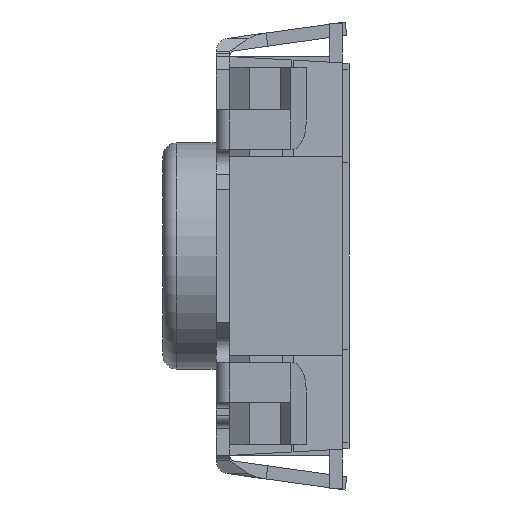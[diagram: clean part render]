
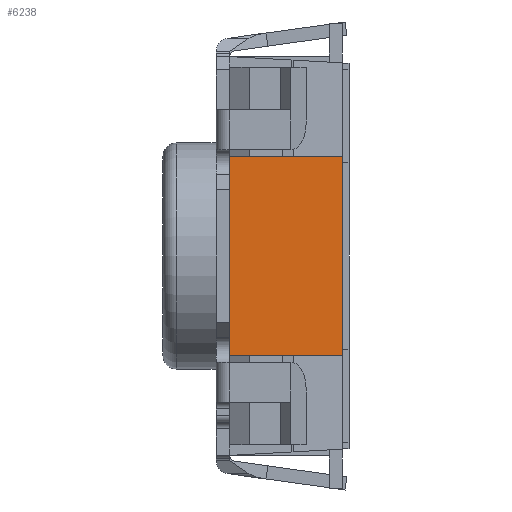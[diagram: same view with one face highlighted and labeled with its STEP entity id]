
A CAD part, left-side view. The second image highlights one B-rep face of the part: STEP entity #6238.
In plain terms, the highlighted planar face has unit normal (-1, 0, 0).
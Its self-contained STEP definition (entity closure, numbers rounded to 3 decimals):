
#214 = CARTESIAN_POINT ( 'NONE',  ( -1.29, 0.05, 0.75 ) ) ;
#222 = DIRECTION ( 'NONE',  ( 0., 0., 1. ) ) ;
#609 = VERTEX_POINT ( 'NONE', #6124 ) ;
#613 = CARTESIAN_POINT ( 'NONE',  ( -1.29, 0.05, -0.75 ) ) ;
#862 = CARTESIAN_POINT ( 'NONE',  ( -1.29, 0.9, 0.75 ) ) ;
#1103 = VECTOR ( 'NONE', #1120, 1000. ) ;
#1120 = DIRECTION ( 'NONE',  ( 0., 0., -1. ) ) ;
#1361 = DIRECTION ( 'NONE',  ( 1., 0., 0. ) ) ;
#1399 = FACE_OUTER_BOUND ( 'NONE', #8857, .T. ) ;
#1402 = DIRECTION ( 'NONE',  ( 0., 0., -1. ) ) ;
#2539 = VERTEX_POINT ( 'NONE', #2923 ) ;
#2706 = CARTESIAN_POINT ( 'NONE',  ( -1.29, 0.9, -1.5 ) ) ;
#2867 = LINE ( 'NONE', #862, #4039 ) ;
#2923 = CARTESIAN_POINT ( 'NONE',  ( -1.29, 0.9, -0.75 ) ) ;
#3076 = ORIENTED_EDGE ( 'NONE', *, *, #8191, .F. ) ;
#3580 = CARTESIAN_POINT ( 'NONE',  ( -1.29, 0.05, -1.5 ) ) ;
#3592 = VECTOR ( 'NONE', #10422, 1000. ) ;
#4039 = VECTOR ( 'NONE', #6727, 1000. ) ;
#4197 = VERTEX_POINT ( 'NONE', #214 ) ;
#4590 = VECTOR ( 'NONE', #222, 1000. ) ;
#4595 = CARTESIAN_POINT ( 'NONE',  ( -1.29, 0.9, -0.75 ) ) ;
#5387 = ORIENTED_EDGE ( 'NONE', *, *, #6188, .T. ) ;
#6124 = CARTESIAN_POINT ( 'NONE',  ( -1.29, 0.9, 0.75 ) ) ;
#6130 = ORIENTED_EDGE ( 'NONE', *, *, #6655, .F. ) ;
#6188 = EDGE_CURVE ( 'NONE', #2539, #9937, #6704, .T. ) ;
#6238 = ADVANCED_FACE ( 'NONE', ( #1399 ), #6280, .F. ) ;
#6280 = PLANE ( 'NONE',  #8396 ) ;
#6655 = EDGE_CURVE ( 'NONE', #4197, #9937, #9785, .T. ) ;
#6704 = LINE ( 'NONE', #4595, #3592 ) ;
#6727 = DIRECTION ( 'NONE',  ( 0., -1., 0. ) ) ;
#6828 = LINE ( 'NONE', #2706, #4590 ) ;
#7057 = EDGE_CURVE ( 'NONE', #609, #4197, #2867, .T. ) ;
#8191 = EDGE_CURVE ( 'NONE', #2539, #609, #6828, .T. ) ;
#8396 = AXIS2_PLACEMENT_3D ( 'NONE', #10498, #1361, #1402 ) ;
#8857 = EDGE_LOOP ( 'NONE', ( #6130, #9036, #3076, #5387 ) ) ;
#9036 = ORIENTED_EDGE ( 'NONE', *, *, #7057, .F. ) ;
#9785 = LINE ( 'NONE', #3580, #1103 ) ;
#9937 = VERTEX_POINT ( 'NONE', #613 ) ;
#10422 = DIRECTION ( 'NONE',  ( 0., -1., 0. ) ) ;
#10498 = CARTESIAN_POINT ( 'NONE',  ( -1.29, 0.9, -1.5 ) ) ;
